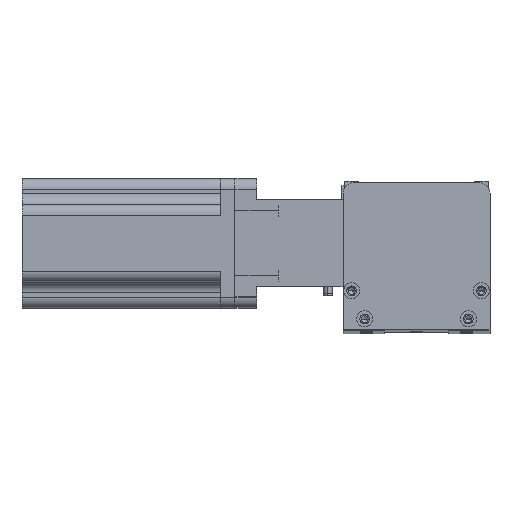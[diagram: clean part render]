
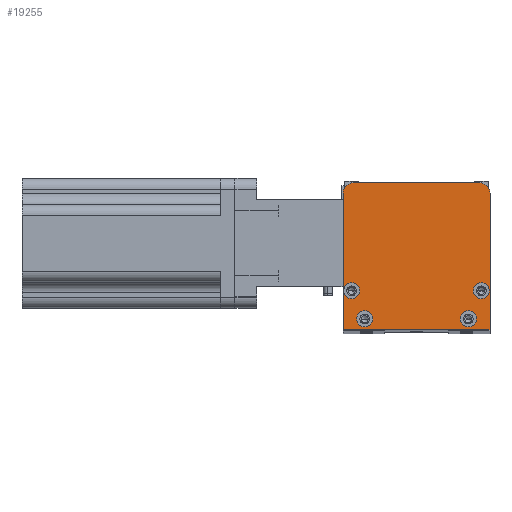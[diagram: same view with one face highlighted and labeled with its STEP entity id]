
A CAD part, top view. The second image highlights one B-rep face of the part: STEP entity #19255.
In plain terms, the highlighted planar face has unit normal (0, 0, 1) as drawn and (0, 0, -1) by its records, which use the part's own axes.
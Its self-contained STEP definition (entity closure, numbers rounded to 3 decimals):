
#13 = CARTESIAN_POINT ( 'NONE',  ( 60.25, 18., 0. ) ) ;
#28 = CARTESIAN_POINT ( 'NONE',  ( 58., 5., 0. ) ) ;
#242 = VERTEX_POINT ( 'NONE', #26010 ) ;
#244 = EDGE_LOOP ( 'NONE', ( #15143, #5877 ) ) ;
#289 = LINE ( 'NONE', #12791, #28249 ) ;
#1195 = DIRECTION ( 'NONE',  ( -1., 0., 0. ) ) ;
#1206 = AXIS2_PLACEMENT_3D ( 'NONE', #22241, #8858, #24482 ) ;
#1226 = DIRECTION ( 'NONE',  ( 0., 0., -1. ) ) ;
#1622 = VERTEX_POINT ( 'NONE', #13841 ) ;
#1649 = AXIS2_PLACEMENT_3D ( 'NONE', #2023, #1926, #1835 ) ;
#1835 = DIRECTION ( 'NONE',  ( -1., 0., 0. ) ) ;
#1926 = DIRECTION ( 'NONE',  ( 0., 0., -1. ) ) ;
#2023 = CARTESIAN_POINT ( 'NONE',  ( 10., 5., 0. ) ) ;
#2173 = EDGE_CURVE ( 'NONE', #16473, #16101, #11508, .T. ) ;
#2190 = DIRECTION ( 'NONE',  ( -1., 0., 0. ) ) ;
#2772 = VERTEX_POINT ( 'NONE', #9448 ) ;
#2834 = VECTOR ( 'NONE', #22591, 1000. ) ;
#2918 = ORIENTED_EDGE ( 'NONE', *, *, #2173, .F. ) ;
#3049 = EDGE_CURVE ( 'NONE', #8106, #8548, #20396, .T. ) ;
#3051 = VERTEX_POINT ( 'NONE', #13 ) ;
#3666 = VERTEX_POINT ( 'NONE', #12006 ) ;
#3707 = CARTESIAN_POINT ( 'NONE',  ( 63., 68., 0. ) ) ;
#3771 = VERTEX_POINT ( 'NONE', #10279 ) ;
#3993 = CARTESIAN_POINT ( 'NONE',  ( 64., 18., 0. ) ) ;
#4046 = EDGE_CURVE ( 'NONE', #23541, #242, #21022, .T. ) ;
#4238 = CIRCLE ( 'NONE', #23835, 3.75 ) ;
#4699 = DIRECTION ( 'NONE',  ( 0., 0., -1. ) ) ;
#4740 = VECTOR ( 'NONE', #11933, 1000. ) ;
#4778 = CARTESIAN_POINT ( 'NONE',  ( 64., 18., 0. ) ) ;
#5015 = VECTOR ( 'NONE', #12274, 1000. ) ;
#5299 = EDGE_CURVE ( 'NONE', #3771, #23541, #20616, .T. ) ;
#5877 = ORIENTED_EDGE ( 'NONE', *, *, #20897, .F. ) ;
#5907 = CIRCLE ( 'NONE', #1206, 5. ) ;
#6168 = DIRECTION ( 'NONE',  ( -1., 0., 0. ) ) ;
#6304 = AXIS2_PLACEMENT_3D ( 'NONE', #11557, #27234, #13729 ) ;
#6959 = DIRECTION ( 'NONE',  ( -1., 0., 0. ) ) ;
#7333 = EDGE_CURVE ( 'NONE', #16101, #16473, #21232, .T. ) ;
#7375 = CARTESIAN_POINT ( 'NONE',  ( 68., 0., 0. ) ) ;
#7554 = EDGE_CURVE ( 'NONE', #3051, #2772, #28197, .T. ) ;
#7682 = ORIENTED_EDGE ( 'NONE', *, *, #13115, .T. ) ;
#7803 = CARTESIAN_POINT ( 'NONE',  ( 61.75, 5., 0. ) ) ;
#8106 = VERTEX_POINT ( 'NONE', #8306 ) ;
#8150 = CARTESIAN_POINT ( 'NONE',  ( 13.75, 5., 0. ) ) ;
#8245 = FACE_BOUND ( 'NONE', #244, .T. ) ;
#8282 = EDGE_CURVE ( 'NONE', #8548, #8106, #15817, .T. ) ;
#8306 = CARTESIAN_POINT ( 'NONE',  ( 7.75, 18., 0. ) ) ;
#8440 = EDGE_LOOP ( 'NONE', ( #8544, #21942 ) ) ;
#8544 = ORIENTED_EDGE ( 'NONE', *, *, #8282, .F. ) ;
#8548 = VERTEX_POINT ( 'NONE', #25612 ) ;
#8580 = LINE ( 'NONE', #24851, #2834 ) ;
#8858 = DIRECTION ( 'NONE',  ( 0., 0., -1. ) ) ;
#8919 = FACE_BOUND ( 'NONE', #13253, .T. ) ;
#9310 = DIRECTION ( 'NONE',  ( 1., 0., 0. ) ) ;
#9448 = CARTESIAN_POINT ( 'NONE',  ( 67.75, 18., 0. ) ) ;
#10014 = AXIS2_PLACEMENT_3D ( 'NONE', #17886, #4699, #20205 ) ;
#10279 = CARTESIAN_POINT ( 'NONE',  ( 0., 0., 0. ) ) ;
#10896 = ORIENTED_EDGE ( 'NONE', *, *, #23273, .F. ) ;
#10937 = EDGE_CURVE ( 'NONE', #22483, #23456, #13777, .T. ) ;
#11508 = CIRCLE ( 'NONE', #1649, 3.75 ) ;
#11557 = CARTESIAN_POINT ( 'NONE',  ( 5., 63., 0. ) ) ;
#11667 = AXIS2_PLACEMENT_3D ( 'NONE', #3993, #19452, #6168 ) ;
#11892 = AXIS2_PLACEMENT_3D ( 'NONE', #14173, #1226, #16462 ) ;
#11933 = DIRECTION ( 'NONE',  ( 0., 1., 0. ) ) ;
#12006 = CARTESIAN_POINT ( 'NONE',  ( 0., 63., 0. ) ) ;
#12274 = DIRECTION ( 'NONE',  ( 1., 0., 0. ) ) ;
#12516 = CIRCLE ( 'NONE', #6304, 5. ) ;
#12791 = CARTESIAN_POINT ( 'NONE',  ( 0., 0., 0. ) ) ;
#13115 = EDGE_CURVE ( 'NONE', #21568, #242, #5907, .T. ) ;
#13253 = EDGE_LOOP ( 'NONE', ( #2918, #13273 ) ) ;
#13273 = ORIENTED_EDGE ( 'NONE', *, *, #7333, .F. ) ;
#13343 = FACE_OUTER_BOUND ( 'NONE', #20427, .T. ) ;
#13572 = PLANE ( 'NONE',  #17621 ) ;
#13729 = DIRECTION ( 'NONE',  ( 1., 0., 0. ) ) ;
#13777 = CIRCLE ( 'NONE', #11892, 3.75 ) ;
#13811 = ORIENTED_EDGE ( 'NONE', *, *, #4046, .F. ) ;
#13841 = CARTESIAN_POINT ( 'NONE',  ( 5., 68., 0. ) ) ;
#13954 = ORIENTED_EDGE ( 'NONE', *, *, #5299, .F. ) ;
#14011 = FACE_BOUND ( 'NONE', #8440, .T. ) ;
#14134 = DIRECTION ( 'NONE',  ( 0., 0., -1. ) ) ;
#14173 = CARTESIAN_POINT ( 'NONE',  ( 58., 5., 0. ) ) ;
#14346 = EDGE_LOOP ( 'NONE', ( #25342, #28573 ) ) ;
#15024 = DIRECTION ( 'NONE',  ( 0., -1., 0. ) ) ;
#15143 = ORIENTED_EDGE ( 'NONE', *, *, #7554, .F. ) ;
#15193 = DIRECTION ( 'NONE',  ( 0., 0., -1. ) ) ;
#15817 = CIRCLE ( 'NONE', #10014, 3.75 ) ;
#16101 = VERTEX_POINT ( 'NONE', #8150 ) ;
#16462 = DIRECTION ( 'NONE',  ( -1., 0., 0. ) ) ;
#16463 = EDGE_CURVE ( 'NONE', #3666, #1622, #12516, .T. ) ;
#16473 = VERTEX_POINT ( 'NONE', #18236 ) ;
#17621 = AXIS2_PLACEMENT_3D ( 'NONE', #18169, #22681, #9310 ) ;
#17627 = AXIS2_PLACEMENT_3D ( 'NONE', #21133, #20906, #20751 ) ;
#17886 = CARTESIAN_POINT ( 'NONE',  ( 4., 18., 0. ) ) ;
#18169 = CARTESIAN_POINT ( 'NONE',  ( 0., 0., 0. ) ) ;
#18236 = CARTESIAN_POINT ( 'NONE',  ( 6.25, 5., 0. ) ) ;
#18389 = EDGE_CURVE ( 'NONE', #23456, #22483, #4238, .T. ) ;
#19255 = ADVANCED_FACE ( 'NONE', ( #8245, #14011, #8919, #19391, #13343 ), #13572, .F. ) ;
#19391 = FACE_BOUND ( 'NONE', #14346, .T. ) ;
#19452 = DIRECTION ( 'NONE',  ( 0., 0., -1. ) ) ;
#20205 = DIRECTION ( 'NONE',  ( -1., 0., 0. ) ) ;
#20280 = DIRECTION ( 'NONE',  ( 0., 0., -1. ) ) ;
#20396 = CIRCLE ( 'NONE', #17627, 3.75 ) ;
#20427 = EDGE_LOOP ( 'NONE', ( #10896, #27957, #25942, #7682, #13811, #13954 ) ) ;
#20468 = AXIS2_PLACEMENT_3D ( 'NONE', #4778, #20280, #6959 ) ;
#20616 = LINE ( 'NONE', #27984, #5015 ) ;
#20751 = DIRECTION ( 'NONE',  ( -1., 0., 0. ) ) ;
#20897 = EDGE_CURVE ( 'NONE', #2772, #3051, #27679, .T. ) ;
#20906 = DIRECTION ( 'NONE',  ( 0., 0., -1. ) ) ;
#21022 = LINE ( 'NONE', #25384, #4740 ) ;
#21133 = CARTESIAN_POINT ( 'NONE',  ( 4., 18., 0. ) ) ;
#21232 = CIRCLE ( 'NONE', #22753, 3.75 ) ;
#21568 = VERTEX_POINT ( 'NONE', #3707 ) ;
#21942 = ORIENTED_EDGE ( 'NONE', *, *, #3049, .F. ) ;
#22241 = CARTESIAN_POINT ( 'NONE',  ( 63., 63., 0. ) ) ;
#22483 = VERTEX_POINT ( 'NONE', #7803 ) ;
#22591 = DIRECTION ( 'NONE',  ( -1., 0., 0. ) ) ;
#22681 = DIRECTION ( 'NONE',  ( 0., 0., 1. ) ) ;
#22753 = AXIS2_PLACEMENT_3D ( 'NONE', #27650, #14134, #1195 ) ;
#23273 = EDGE_CURVE ( 'NONE', #3666, #3771, #289, .T. ) ;
#23456 = VERTEX_POINT ( 'NONE', #24717 ) ;
#23541 = VERTEX_POINT ( 'NONE', #7375 ) ;
#23835 = AXIS2_PLACEMENT_3D ( 'NONE', #28, #15193, #2190 ) ;
#24482 = DIRECTION ( 'NONE',  ( 1., 0., 0. ) ) ;
#24717 = CARTESIAN_POINT ( 'NONE',  ( 54.25, 5., 0. ) ) ;
#24851 = CARTESIAN_POINT ( 'NONE',  ( 68., 68., 0. ) ) ;
#25247 = EDGE_CURVE ( 'NONE', #21568, #1622, #8580, .T. ) ;
#25342 = ORIENTED_EDGE ( 'NONE', *, *, #18389, .F. ) ;
#25384 = CARTESIAN_POINT ( 'NONE',  ( 68., 0., 0. ) ) ;
#25612 = CARTESIAN_POINT ( 'NONE',  ( 0.25, 18., 0. ) ) ;
#25942 = ORIENTED_EDGE ( 'NONE', *, *, #25247, .F. ) ;
#26010 = CARTESIAN_POINT ( 'NONE',  ( 68., 63., 0. ) ) ;
#27234 = DIRECTION ( 'NONE',  ( 0., 0., -1. ) ) ;
#27650 = CARTESIAN_POINT ( 'NONE',  ( 10., 5., 0. ) ) ;
#27679 = CIRCLE ( 'NONE', #20468, 3.75 ) ;
#27957 = ORIENTED_EDGE ( 'NONE', *, *, #16463, .T. ) ;
#27984 = CARTESIAN_POINT ( 'NONE',  ( 68., 0., 0. ) ) ;
#28197 = CIRCLE ( 'NONE', #11667, 3.75 ) ;
#28249 = VECTOR ( 'NONE', #15024, 1000. ) ;
#28573 = ORIENTED_EDGE ( 'NONE', *, *, #10937, .F. ) ;
